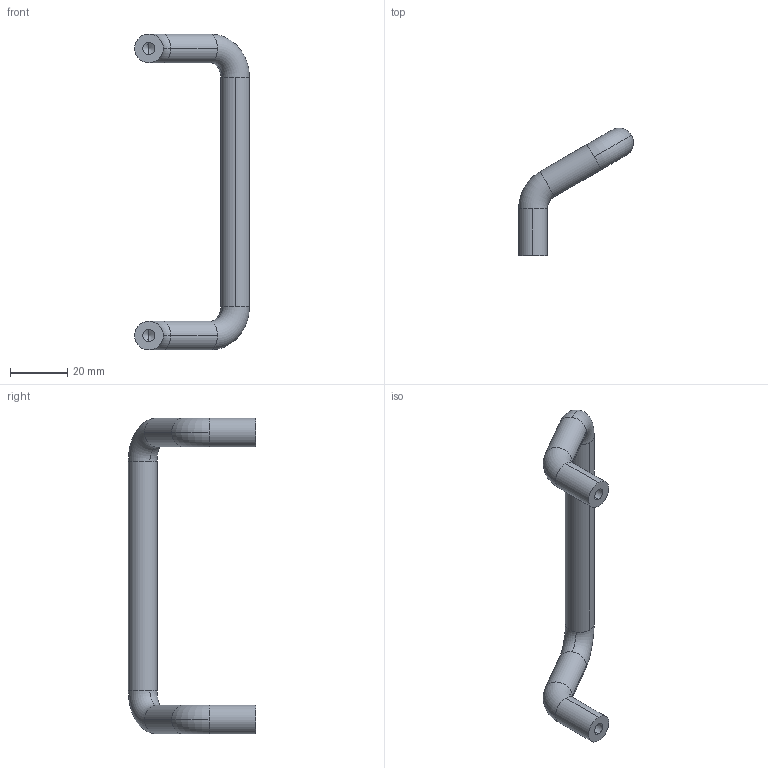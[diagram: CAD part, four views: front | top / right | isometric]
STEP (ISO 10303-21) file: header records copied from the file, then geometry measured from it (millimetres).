
FILE_DESCRIPTION (( 'STEP AP203' ), '1' );
FILE_NAME ('E07-507100.STEP', '2024-10-29T05:53:49', ( '' ), ( '' ), 'SwSTEP 2.0', 'SolidWorks 2021', '' );
FILE_SCHEMA (( 'CONFIG_CONTROL_DESIGN' ));
Length unit declared in the file: millimetre
Products named in the file (1): E07-507100
Bounding box: 40 x 44.32 x 110 mm (x, y, z)
Volume: 15536.2 mm3; surface area: 6868 mm2
Topology: 1 solids, 1 shells, 28 faces, 70 edges, 42 vertices
Faces by surface type: cylinder 14, torus 8, cone 4, plane 2
Entity records: 907 total; most frequent: DIRECTION 172, CARTESIAN_POINT 137, ORIENTED_EDGE 132, AXIS2_PLACEMENT_3D 77, EDGE_CURVE 66, CIRCLE 48, VERTEX_POINT 42, EDGE_LOOP 30
